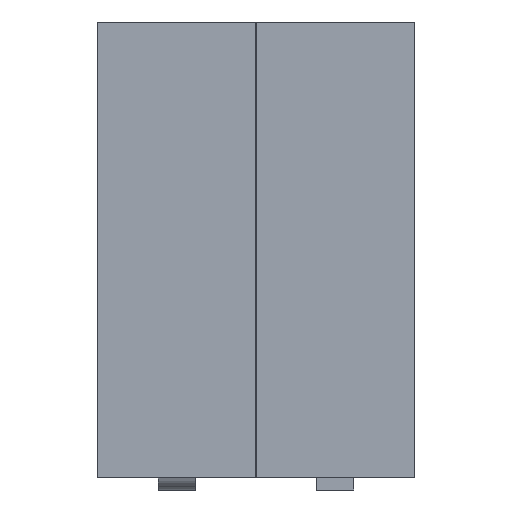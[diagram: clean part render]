
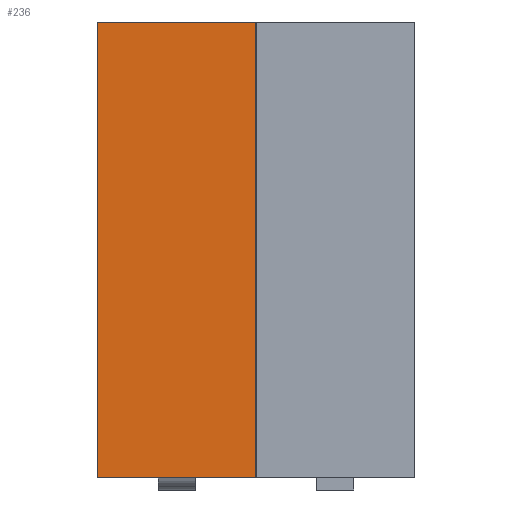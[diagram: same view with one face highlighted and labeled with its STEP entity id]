
A CAD part, left-side view. The second image highlights one B-rep face of the part: STEP entity #236.
In plain terms, the highlighted planar face has unit normal (-1, 0, 0).
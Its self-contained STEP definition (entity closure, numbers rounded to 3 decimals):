
#104 = EDGE_CURVE('',#105,#107,#109,.T.);
#105 = VERTEX_POINT('',#106);
#106 = CARTESIAN_POINT('',(-1.25,1.27,7.5));
#107 = VERTEX_POINT('',#108);
#108 = CARTESIAN_POINT('',(-1.25,-1.27,7.5));
#109 = LINE('',#110,#111);
#110 = CARTESIAN_POINT('',(-1.25,1.27,7.5));
#111 = VECTOR('',#112,1.);
#112 = DIRECTION('',(0.,-1.,0.));
#236 = ADVANCED_FACE('',(#237),#262,.F.);
#237 = FACE_BOUND('',#238,.F.);
#238 = EDGE_LOOP('',(#239,#247,#248,#256));
#239 = ORIENTED_EDGE('',*,*,#240,.T.);
#240 = EDGE_CURVE('',#241,#105,#243,.T.);
#241 = VERTEX_POINT('',#242);
#242 = CARTESIAN_POINT('',(-1.25,1.27,0.2));
#243 = LINE('',#244,#245);
#244 = CARTESIAN_POINT('',(-1.25,1.27,0.2));
#245 = VECTOR('',#246,1.);
#246 = DIRECTION('',(0.,0.,1.));
#247 = ORIENTED_EDGE('',*,*,#104,.T.);
#248 = ORIENTED_EDGE('',*,*,#249,.F.);
#249 = EDGE_CURVE('',#250,#107,#252,.T.);
#250 = VERTEX_POINT('',#251);
#251 = CARTESIAN_POINT('',(-1.25,-1.27,0.2));
#252 = LINE('',#253,#254);
#253 = CARTESIAN_POINT('',(-1.25,-1.27,0.2));
#254 = VECTOR('',#255,1.);
#255 = DIRECTION('',(0.,0.,1.));
#256 = ORIENTED_EDGE('',*,*,#257,.F.);
#257 = EDGE_CURVE('',#241,#250,#258,.T.);
#258 = LINE('',#259,#260);
#259 = CARTESIAN_POINT('',(-1.25,1.27,0.2));
#260 = VECTOR('',#261,1.);
#261 = DIRECTION('',(0.,-1.,0.));
#262 = PLANE('',#263);
#263 = AXIS2_PLACEMENT_3D('',#264,#265,#266);
#264 = CARTESIAN_POINT('',(-1.25,1.27,0.2));
#265 = DIRECTION('',(1.,0.,0.));
#266 = DIRECTION('',(0.,-1.,0.));
